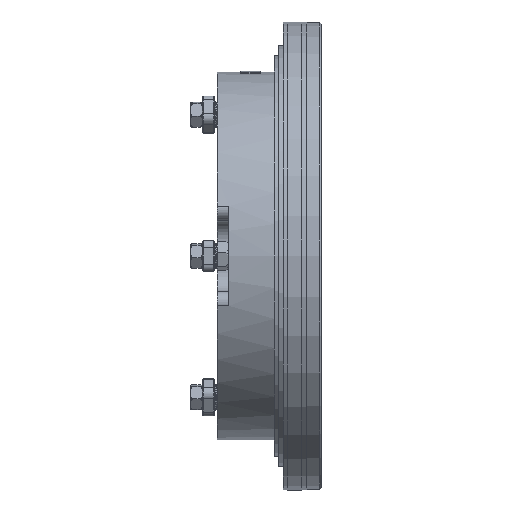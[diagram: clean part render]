
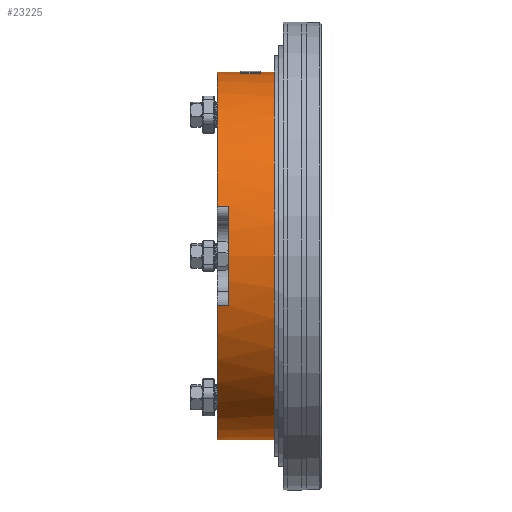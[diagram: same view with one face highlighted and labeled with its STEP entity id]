
A CAD part, left-side view. The second image highlights one B-rep face of the part: STEP entity #23225.
In plain terms, the highlighted cylindrical face has radius 78.74 mm (diameter 157.48 mm), a partial arc.
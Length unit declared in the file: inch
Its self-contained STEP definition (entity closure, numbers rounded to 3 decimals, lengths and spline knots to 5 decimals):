
#7930 = DIRECTION ( 'NONE',  ( 0., 0., 1. ) ) ;
#7931 = VECTOR ( 'NONE', #7930, 39.37008 ) ;
#7932 = CARTESIAN_POINT ( 'NONE',  ( -3.1, 0., 0. ) ) ;
#7939 = CARTESIAN_POINT ( 'NONE',  ( -3.1, 0., 0. ) ) ;
#7942 = LINE ( 'NONE', #7939, #7931 ) ;
#9444 = CARTESIAN_POINT ( 'NONE',  ( 0., 0., 0. ) ) ;
#9471 = FACE_OUTER_BOUND ( 'NONE', #23455, .T. ) ;
#9493 = DIRECTION ( 'NONE',  ( 0., 0., 1. ) ) ;
#9494 = VECTOR ( 'NONE', #9493, 39.37008 ) ;
#9495 = CARTESIAN_POINT ( 'NONE',  ( -0.84079, -2.9838, 0. ) ) ;
#9496 = LINE ( 'NONE', #9495, #9494 ) ;
#9514 = CARTESIAN_POINT ( 'NONE',  ( 0.84079, -2.9838, 0. ) ) ;
#9521 = DIRECTION ( 'NONE',  ( 0., 0., 1. ) ) ;
#9524 = AXIS2_PLACEMENT_3D ( 'NONE', #9444, #9521, #9532 ) ;
#9532 = DIRECTION ( 'NONE',  ( 1., 0., 0. ) ) ;
#9535 = CYLINDRICAL_SURFACE ( 'NONE', #9524, 3.1 ) ;
#9543 = DIRECTION ( 'NONE',  ( 1., 0., 0. ) ) ;
#9544 = DIRECTION ( 'NONE',  ( 0., 0., 1. ) ) ;
#9545 = CARTESIAN_POINT ( 'NONE',  ( 0., 0., -0.965 ) ) ;
#9549 = CARTESIAN_POINT ( 'NONE',  ( 3.1, 0., 0. ) ) ;
#9550 = DIRECTION ( 'NONE',  ( 0., 0., 1. ) ) ;
#9552 = CARTESIAN_POINT ( 'NONE',  ( -0.84079, -2.9838, 0. ) ) ;
#9553 = CARTESIAN_POINT ( 'NONE',  ( -0.84079, -2.9838, -0.2 ) ) ;
#9554 = DIRECTION ( 'NONE',  ( 1., 0., 0. ) ) ;
#9555 = DIRECTION ( 'NONE',  ( 0., 0., 1. ) ) ;
#9556 = CARTESIAN_POINT ( 'NONE',  ( 0., 0., 0. ) ) ;
#9557 = CIRCLE ( 'NONE', #9565, 3.1 ) ;
#9558 = CARTESIAN_POINT ( 'NONE',  ( 3.1, 0., -0.965 ) ) ;
#9559 = VECTOR ( 'NONE', #9550, 39.37008 ) ;
#9560 = CARTESIAN_POINT ( 'NONE',  ( 3.1, 0., 0. ) ) ;
#9561 = DIRECTION ( 'NONE',  ( 0., 0., -1. ) ) ;
#9562 = VECTOR ( 'NONE', #9561, 39.37008 ) ;
#9563 = CARTESIAN_POINT ( 'NONE',  ( 0.84079, -2.9838, 0. ) ) ;
#9564 = LINE ( 'NONE', #9563, #9562 ) ;
#9565 = AXIS2_PLACEMENT_3D ( 'NONE', #9545, #9544, #9543 ) ;
#9566 = LINE ( 'NONE', #9560, #9559 ) ;
#9571 = AXIS2_PLACEMENT_3D ( 'NONE', #9556, #9555, #9554 ) ;
#9572 = CARTESIAN_POINT ( 'NONE',  ( 0.84079, -2.9838, -0.2 ) ) ;
#9575 = CIRCLE ( 'NONE', #9571, 3.1 ) ;
#9731 = CARTESIAN_POINT ( 'NONE',  ( -3.1, 0., -0.965 ) ) ;
#9794 = CIRCLE ( 'NONE', #9848, 3.1 ) ;
#9844 = DIRECTION ( 'NONE',  ( 1., 0., 0. ) ) ;
#9845 = DIRECTION ( 'NONE',  ( 0., 0., 1. ) ) ;
#9846 = CARTESIAN_POINT ( 'NONE',  ( 0., 0., 0. ) ) ;
#9848 = AXIS2_PLACEMENT_3D ( 'NONE', #9846, #9845, #9844 ) ;
#10106 = DIRECTION ( 'NONE',  ( -1., 0., 0. ) ) ;
#10107 = DIRECTION ( 'NONE',  ( 0., 0., -1. ) ) ;
#10108 = CARTESIAN_POINT ( 'NONE',  ( 0., 0., -0.2 ) ) ;
#10109 = AXIS2_PLACEMENT_3D ( 'NONE', #10108, #10107, #10106 ) ;
#10114 = CIRCLE ( 'NONE', #10109, 3.1 ) ;
#23042 = VERTEX_POINT ( 'NONE', #7932 ) ;
#23048 = EDGE_CURVE ( 'NONE', #23404, #23042, #7942, .T. ) ;
#23225 = ADVANCED_FACE ( 'NONE', ( #9471 ), #9535, .T. ) ;
#23229 = VERTEX_POINT ( 'NONE', #9514 ) ;
#23235 = EDGE_CURVE ( 'NONE', #23297, #23294, #9496, .T. ) ;
#23286 = VERTEX_POINT ( 'NONE', #9572 ) ;
#23287 = EDGE_CURVE ( 'NONE', #23229, #23286, #9564, .T. ) ;
#23288 = ORIENTED_EDGE ( 'NONE', *, *, #23290, .F. ) ;
#23289 = ORIENTED_EDGE ( 'NONE', *, *, #23293, .T. ) ;
#23290 = EDGE_CURVE ( 'NONE', #23229, #23296, #9575, .T. ) ;
#23291 = VERTEX_POINT ( 'NONE', #9558 ) ;
#23292 = ORIENTED_EDGE ( 'NONE', *, *, #23295, .T. ) ;
#23293 = EDGE_CURVE ( 'NONE', #23291, #23296, #9566, .T. ) ;
#23294 = VERTEX_POINT ( 'NONE', #9552 ) ;
#23295 = EDGE_CURVE ( 'NONE', #23404, #23291, #9557, .T. ) ;
#23296 = VERTEX_POINT ( 'NONE', #9549 ) ;
#23297 = VERTEX_POINT ( 'NONE', #9553 ) ;
#23345 = ORIENTED_EDGE ( 'NONE', *, *, #23235, .T. ) ;
#23346 = EDGE_CURVE ( 'NONE', #23042, #23294, #9794, .T. ) ;
#23347 = ORIENTED_EDGE ( 'NONE', *, *, #23346, .F. ) ;
#23404 = VERTEX_POINT ( 'NONE', #9731 ) ;
#23429 = ORIENTED_EDGE ( 'NONE', *, *, #23287, .T. ) ;
#23432 = ORIENTED_EDGE ( 'NONE', *, *, #23461, .T. ) ;
#23455 = EDGE_LOOP ( 'NONE', ( #23462, #23292, #23289, #23288, #23429, #23432, #23345, #23347 ) ) ;
#23461 = EDGE_CURVE ( 'NONE', #23286, #23297, #10114, .T. ) ;
#23462 = ORIENTED_EDGE ( 'NONE', *, *, #23048, .F. ) ;
